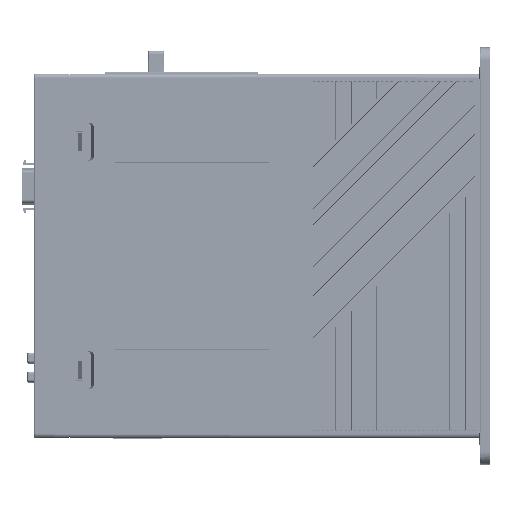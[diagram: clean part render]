
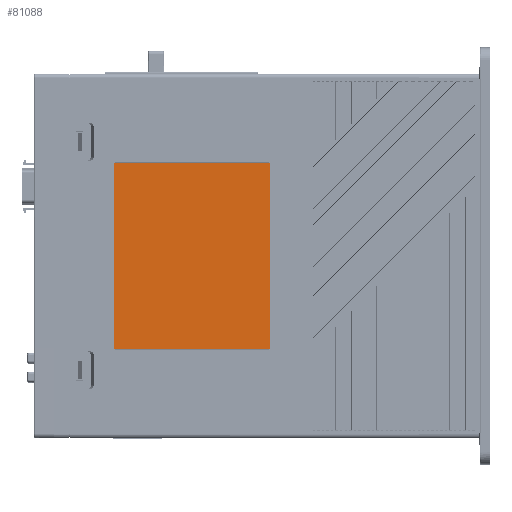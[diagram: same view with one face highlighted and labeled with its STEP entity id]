
A CAD part, left-side view. The second image highlights one B-rep face of the part: STEP entity #81088.
In plain terms, the highlighted planar face has unit normal (-1, 0, 0) as drawn and (0, 0, 1) by its records, which use the part's own axes.
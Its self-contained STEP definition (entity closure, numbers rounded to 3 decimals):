
#66204=CARTESIAN_POINT('',(-40.5,159.5,-0.3));
#66205=DIRECTION('',(0.,0.,-1.));
#66206=DIRECTION('',(-1.,0.,0.));
#66207=AXIS2_PLACEMENT_3D('',#66204,#66205,#66206);
#66209=DIRECTION('',(1.,0.,0.));
#66210=VECTOR('',#66209,81.);
#66211=CARTESIAN_POINT('',(-40.5,160.,-0.3));
#66212=LINE('',#66211,#66210);
#66213=CARTESIAN_POINT('',(40.5,159.5,-0.3));
#66214=DIRECTION('',(0.,0.,-1.));
#66215=DIRECTION('',(0.,1.,0.));
#66216=AXIS2_PLACEMENT_3D('',#66213,#66214,#66215);
#66218=DIRECTION('',(0.,-1.,0.));
#66219=VECTOR('',#66218,67.5);
#66220=CARTESIAN_POINT('',(41.,159.5,-0.3));
#66221=LINE('',#66220,#66219);
#66222=CARTESIAN_POINT('',(40.5,92.,-0.3));
#66223=DIRECTION('',(0.,0.,-1.));
#66224=DIRECTION('',(1.,0.,0.));
#66225=AXIS2_PLACEMENT_3D('',#66222,#66223,#66224);
#66227=DIRECTION('',(-1.,0.,0.));
#66228=VECTOR('',#66227,81.);
#66229=CARTESIAN_POINT('',(40.5,91.5,-0.3));
#66230=LINE('',#66229,#66228);
#66231=CARTESIAN_POINT('',(-40.5,92.,-0.3));
#66232=DIRECTION('',(0.,0.,-1.));
#66233=DIRECTION('',(0.,-1.,0.));
#66234=AXIS2_PLACEMENT_3D('',#66231,#66232,#66233);
#66236=DIRECTION('',(0.,1.,0.));
#66237=VECTOR('',#66236,67.5);
#66238=CARTESIAN_POINT('',(-41.,92.,-0.3));
#66239=LINE('',#66238,#66237);
#68475=CARTESIAN_POINT('',(41.,159.5,-0.3));
#68476=VERTEX_POINT('',#68475);
#68477=CARTESIAN_POINT('',(41.,92.,-0.3));
#68478=VERTEX_POINT('',#68477);
#68479=CARTESIAN_POINT('',(40.5,160.,-0.3));
#68480=VERTEX_POINT('',#68479);
#68481=CARTESIAN_POINT('',(-41.,159.5,-0.3));
#68482=CARTESIAN_POINT('',(-40.5,160.,-0.3));
#68483=VERTEX_POINT('',#68481);
#68484=VERTEX_POINT('',#68482);
#68485=CARTESIAN_POINT('',(40.5,91.5,-0.3));
#68486=VERTEX_POINT('',#68485);
#68487=CARTESIAN_POINT('',(-40.5,91.5,-0.3));
#68488=VERTEX_POINT('',#68487);
#68489=CARTESIAN_POINT('',(-41.,92.,-0.3));
#68490=VERTEX_POINT('',#68489);
#81067=CARTESIAN_POINT('',(0.,0.,-0.3));
#81068=DIRECTION('',(0.,0.,1.));
#81069=DIRECTION('',(1.,0.,0.));
#81070=AXIS2_PLACEMENT_3D('',#81067,#81068,#81069);
#81071=PLANE('',#81070);
#81073=ORIENTED_EDGE('',*,*,#81072,.T.);
#81075=ORIENTED_EDGE('',*,*,#81074,.T.);
#81076=ORIENTED_EDGE('',*,*,#81058,.T.);
#81077=ORIENTED_EDGE('',*,*,#81048,.T.);
#81079=ORIENTED_EDGE('',*,*,#81078,.T.);
#81081=ORIENTED_EDGE('',*,*,#81080,.T.);
#81083=ORIENTED_EDGE('',*,*,#81082,.T.);
#81085=ORIENTED_EDGE('',*,*,#81084,.T.);
#81086=EDGE_LOOP('',(#81073,#81075,#81076,#81077,#81079,#81081,#81083,#81085));
#81087=FACE_OUTER_BOUND('',#81086,.F.);
#81088=ADVANCED_FACE('',(#81087),#81071,.T.);
#66208=CIRCLE('',#66207,0.5);
#66217=CIRCLE('',#66216,0.5);
#66226=CIRCLE('',#66225,0.5);
#66235=CIRCLE('',#66234,0.5);
#81048=EDGE_CURVE('',#68476,#68478,#66221,.T.);
#81058=EDGE_CURVE('',#68480,#68476,#66217,.T.);
#81072=EDGE_CURVE('',#68483,#68484,#66208,.T.);
#81074=EDGE_CURVE('',#68484,#68480,#66212,.T.);
#81078=EDGE_CURVE('',#68478,#68486,#66226,.T.);
#81080=EDGE_CURVE('',#68486,#68488,#66230,.T.);
#81082=EDGE_CURVE('',#68488,#68490,#66235,.T.);
#81084=EDGE_CURVE('',#68490,#68483,#66239,.T.);
